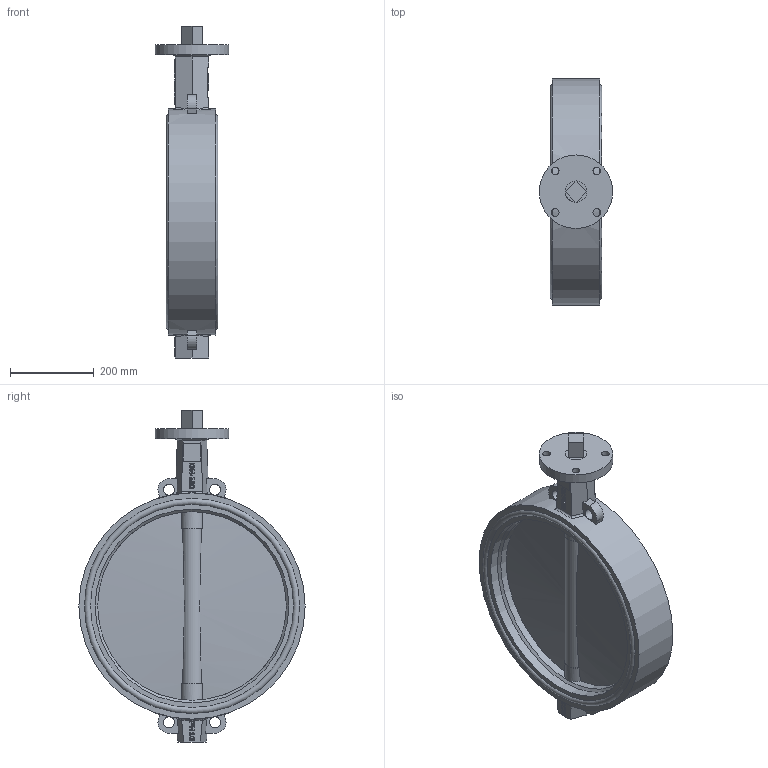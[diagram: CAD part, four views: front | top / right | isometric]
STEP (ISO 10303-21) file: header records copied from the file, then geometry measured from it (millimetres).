
FILE_DESCRIPTION(('STEP AP242'), '1');
FILE_NAME('Ïîâîðîòíûé çàòâîð ïîä ýëåêòðîïðèâîä', '', ('UNSPECIFIED'), ('UNSPECIFIED'), 'C3D Converter', 'C3D Toolkit', '');
FILE_SCHEMA(('AP242_MANAGED_MODEL_BASED_3D_ENGINEERING_MIM_LF { 1 0 10303 442 1 1 4 }'));
Length unit declared in the file: millimetre
Products named in the file (6): П
Assembly tree (6 placements, depth 2):
  (unnamed)
    (unnamed)
    П  x2
    (unnamed)
    (unnamed)
    (unnamed)
Bounding box: 175 x 539 x 791 mm (x, y, z)
Volume: 14021599.6 mm3; surface area: 1692162.7 mm2
Topology: 6 solids, 6 shells, 399 faces, 1056 edges, 694 vertices
Faces by surface type: plane 203, extrusion 119, cylinder 55, bspline 8, torus 6, cone 4, sphere 4
Full cylindrical faces by diameter (mm): 12.564 x1, 18 x4, 26 x4, 36 x6, 50.912 x5, 54.15 x4, 175 x1, 450 x1, 461.4 x2, 484.2 x2, 498.3 x4, 512.4 x4, 539 x1
Entity records: 17616 total; most frequent: CARTESIAN_POINT 6283, ORIENTED_EDGE 2004, DIRECTION 1490, EDGE_CURVE 1002, VERTEX_POINT 689, VECTOR 660, LINE 541, EDGE_LOOP 497
